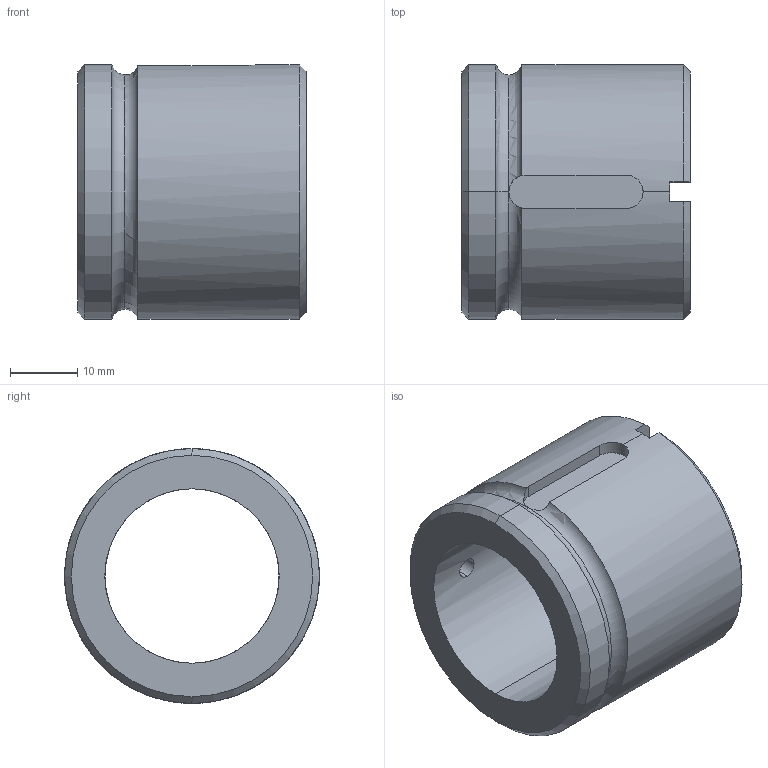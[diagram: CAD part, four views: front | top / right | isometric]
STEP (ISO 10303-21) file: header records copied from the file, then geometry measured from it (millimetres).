
FILE_DESCRIPTION (( 'STEP AP214' ), '1' );
FILE_NAME ('KGM-N 2505.STEP', '2021-01-19T05:20:31', ( 'user' ), ( 'datathink' ), 'SwSTEP 2.0', 'SolidWorks 2013', '' );
FILE_SCHEMA (( 'AUTOMOTIVE_DESIGN' ));
Length unit declared in the file: millimetre
Products named in the file (1): KGM-N 2505
Bounding box: 34 x 38 x 38 mm (x, y, z)
Volume: 19578.8 mm3; surface area: 8176.8 mm2
Topology: 1 solids, 1 shells, 31 faces, 82 edges, 51 vertices
Faces by surface type: plane 12, cylinder 11, torus 4, cone 4
Entity records: 1161 total; most frequent: CARTESIAN_POINT 351, DIRECTION 165, ORIENTED_EDGE 164, EDGE_CURVE 82, AXIS2_PLACEMENT_3D 65, VERTEX_POINT 51, LINE 35, VECTOR 35
